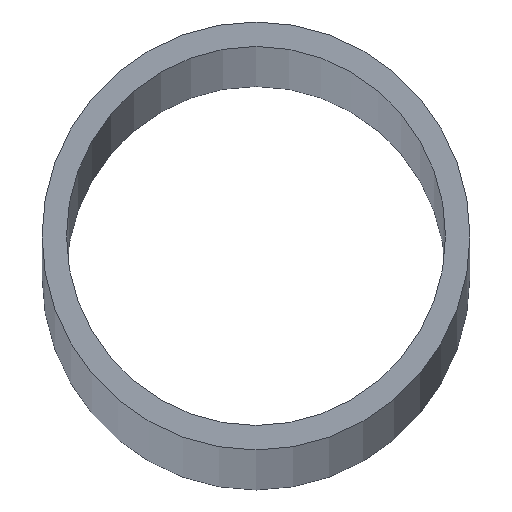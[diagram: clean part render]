
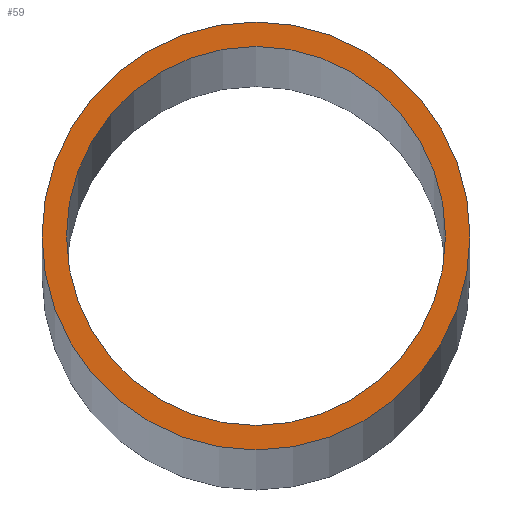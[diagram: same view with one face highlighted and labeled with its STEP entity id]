
A CAD part, top view. The second image highlights one B-rep face of the part: STEP entity #59.
In plain terms, the highlighted planar face has unit normal (0, 0, 1).
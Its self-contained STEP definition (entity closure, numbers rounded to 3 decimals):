
#12=PLANE($,#70);
#16=FACE_BOUND($,#26,.T.);
#17=FACE_BOUND($,#27,.T.);
#26=EDGE_LOOP($,(#46));
#27=EDGE_LOOP($,(#47));
#30=CIRCLE($,#65,24.8);
#32=CIRCLE($,#68,28.);
#34=VERTEX_POINT($,#92);
#36=VERTEX_POINT($,#97);
#38=EDGE_CURVE($,#34,#34,#30,.T.);
#40=EDGE_CURVE($,#36,#36,#32,.T.);
#46=ORIENTED_EDGE($,*,*,#38,.T.);
#47=ORIENTED_EDGE($,*,*,#40,.F.);
#59=ADVANCED_FACE($,(#16,#17),#12,.F.);
#65=AXIS2_PLACEMENT_3D($,#93,#76,#77);
#68=AXIS2_PLACEMENT_3D($,#98,#82,#83);
#70=AXIS2_PLACEMENT_3D($,#101,#86,#87);
#76=DIRECTION('center_axis',(0.,0.,-1.));
#77=DIRECTION('ref_axis',(-1.,0.,0.));
#82=DIRECTION('center_axis',(0.,0.,-1.));
#83=DIRECTION('ref_axis',(-1.,0.,0.));
#86=DIRECTION('center_axis',(0.,0.,-1.));
#87=DIRECTION('ref_axis',(-1.,0.,0.));
#92=CARTESIAN_POINT('',(24.8,0.,3000.));
#93=CARTESIAN_POINT('Origin',(0.,0.,3000.));
#97=CARTESIAN_POINT('',(28.,0.,3000.));
#98=CARTESIAN_POINT('Origin',(0.,0.,3000.));
#101=CARTESIAN_POINT('Origin',(0.,0.,3000.));
